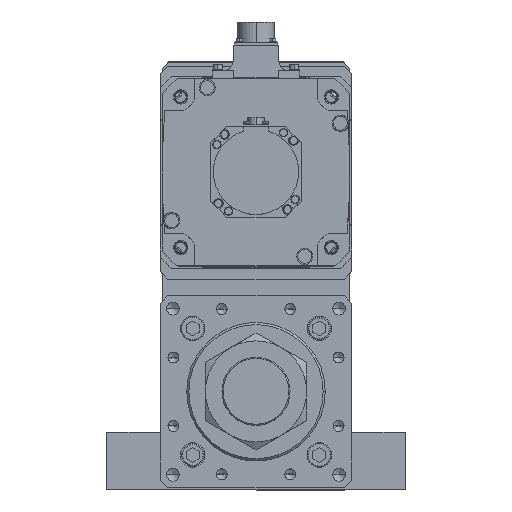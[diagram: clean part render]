
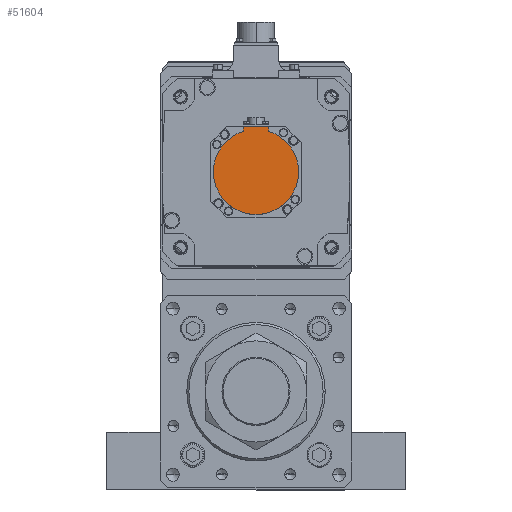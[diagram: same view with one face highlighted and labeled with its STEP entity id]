
A CAD part, top view. The second image highlights one B-rep face of the part: STEP entity #51604.
In plain terms, the highlighted planar face has unit normal (0, 0, 1) as drawn and (0, 0, -1) by its records, which use the part's own axes.
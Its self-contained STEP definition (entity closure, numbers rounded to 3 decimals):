
#2481 = CARTESIAN_POINT ( 'NONE',  ( -40., 0., -178.5 ) ) ;
#2873 = LINE ( 'NONE', #22431, #30754 ) ;
#4041 = DIRECTION ( 'NONE',  ( 0., 0., 1. ) ) ;
#5182 = AXIS2_PLACEMENT_3D ( 'NONE', #28101, #11567, #11030 ) ;
#6643 = CIRCLE ( 'NONE', #14842, 40. ) ;
#6771 = VERTEX_POINT ( 'NONE', #43430 ) ;
#7138 = DIRECTION ( 'NONE',  ( 0., 0., 1. ) ) ;
#9914 = DIRECTION ( 'NONE',  ( -1., 0., 0. ) ) ;
#11030 = DIRECTION ( 'NONE',  ( 1., 0., 0. ) ) ;
#11567 = DIRECTION ( 'NONE',  ( 0., 0., 1. ) ) ;
#12022 = ORIENTED_EDGE ( 'NONE', *, *, #17659, .T. ) ;
#14030 = CARTESIAN_POINT ( 'NONE',  ( 0., 0., -178.5 ) ) ;
#14368 = ORIENTED_EDGE ( 'NONE', *, *, #15476, .F. ) ;
#14842 = AXIS2_PLACEMENT_3D ( 'NONE', #14030, #38651, #26366 ) ;
#15057 = CARTESIAN_POINT ( 'NONE',  ( 40., 0., -178.5 ) ) ;
#15476 = EDGE_CURVE ( 'NONE', #52249, #32548, #16774, .T. ) ;
#15502 = CARTESIAN_POINT ( 'NONE',  ( 12., -38.158, -178.5 ) ) ;
#16076 = EDGE_LOOP ( 'NONE', ( #12022, #47429, #45021, #40056, #14368, #31389 ) ) ;
#16774 = LINE ( 'NONE', #26150, #22583 ) ;
#17659 = EDGE_CURVE ( 'NONE', #32719, #6771, #48431, .T. ) ;
#18217 = CIRCLE ( 'NONE', #5182, 40. ) ;
#18562 = VERTEX_POINT ( 'NONE', #15057 ) ;
#18611 = AXIS2_PLACEMENT_3D ( 'NONE', #48098, #7138, #36103 ) ;
#21181 = EDGE_CURVE ( 'NONE', #32548, #18562, #43623, .T. ) ;
#22431 = CARTESIAN_POINT ( 'NONE',  ( 0., -42.5, -178.5 ) ) ;
#22583 = VECTOR ( 'NONE', #29792, 1000. ) ;
#26150 = CARTESIAN_POINT ( 'NONE',  ( 12., -1.249, -178.5 ) ) ;
#26366 = DIRECTION ( 'NONE',  ( 1., 0., 0. ) ) ;
#28101 = CARTESIAN_POINT ( 'NONE',  ( 0., 0., -178.5 ) ) ;
#28249 = DIRECTION ( 'NONE',  ( 0., 1., 0. ) ) ;
#29792 = DIRECTION ( 'NONE',  ( 0., 1., 0. ) ) ;
#30051 = CARTESIAN_POINT ( 'NONE',  ( 12., -42.5, -178.5 ) ) ;
#30093 = EDGE_CURVE ( 'NONE', #35711, #6771, #18217, .T. ) ;
#30754 = VECTOR ( 'NONE', #9914, 1000. ) ;
#31389 = ORIENTED_EDGE ( 'NONE', *, *, #38456, .T. ) ;
#31587 = VECTOR ( 'NONE', #28249, 1000. ) ;
#32548 = VERTEX_POINT ( 'NONE', #15502 ) ;
#32719 = VERTEX_POINT ( 'NONE', #38461 ) ;
#35711 = VERTEX_POINT ( 'NONE', #2481 ) ;
#36103 = DIRECTION ( 'NONE',  ( 1., 0., 0. ) ) ;
#36732 = CARTESIAN_POINT ( 'NONE',  ( -12., -40.329, -178.5 ) ) ;
#37700 = CARTESIAN_POINT ( 'NONE',  ( 0., -1.249, -178.5 ) ) ;
#38456 = EDGE_CURVE ( 'NONE', #52249, #32719, #2873, .T. ) ;
#38461 = CARTESIAN_POINT ( 'NONE',  ( -12., -42.5, -178.5 ) ) ;
#38651 = DIRECTION ( 'NONE',  ( 0., 0., 1. ) ) ;
#40056 = ORIENTED_EDGE ( 'NONE', *, *, #21181, .F. ) ;
#40988 = FACE_OUTER_BOUND ( 'NONE', #16076, .T. ) ;
#41145 = DIRECTION ( 'NONE',  ( 1., 0., 0. ) ) ;
#43430 = CARTESIAN_POINT ( 'NONE',  ( -12., -38.158, -178.5 ) ) ;
#43623 = CIRCLE ( 'NONE', #18611, 40. ) ;
#45021 = ORIENTED_EDGE ( 'NONE', *, *, #51371, .F. ) ;
#47429 = ORIENTED_EDGE ( 'NONE', *, *, #30093, .F. ) ;
#48098 = CARTESIAN_POINT ( 'NONE',  ( 0., 0., -178.5 ) ) ;
#48431 = LINE ( 'NONE', #36732, #31587 ) ;
#48517 = AXIS2_PLACEMENT_3D ( 'NONE', #37700, #4041, #41145 ) ;
#50227 = PLANE ( 'NONE',  #48517 ) ;
#51371 = EDGE_CURVE ( 'NONE', #18562, #35711, #6643, .T. ) ;
#51604 = ADVANCED_FACE ( 'NONE', ( #40988 ), #50227, .F. ) ;
#52249 = VERTEX_POINT ( 'NONE', #30051 ) ;
